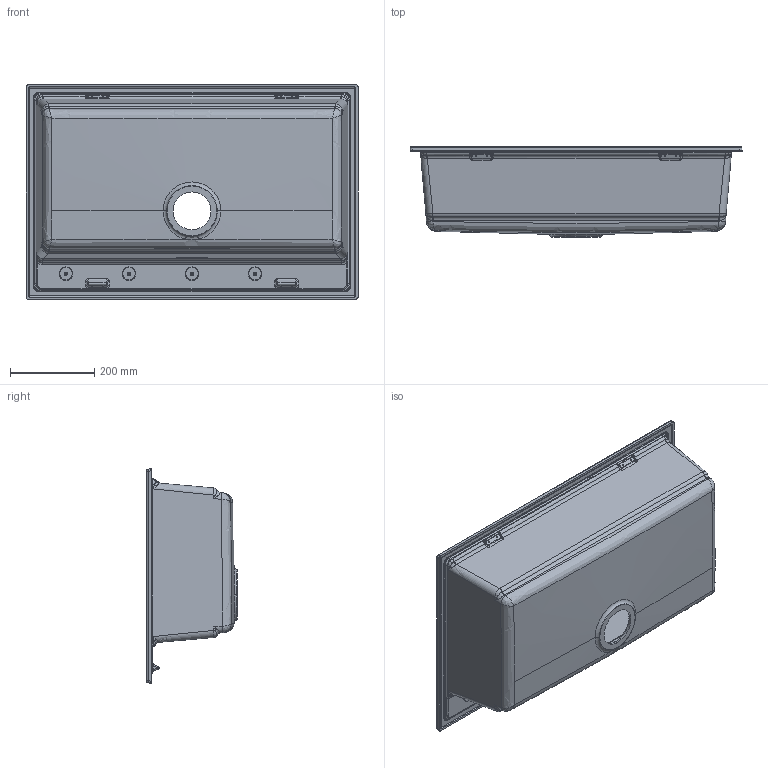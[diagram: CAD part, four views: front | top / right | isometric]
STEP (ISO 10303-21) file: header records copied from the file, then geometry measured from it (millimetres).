
FILE_DESCRIPTION (( 'STEP AP203' ), '1' );
FILE_NAME ('3d_best_130.STEP', '2023-01-11T08:04:17', ( '' ), ( '' ), 'SwSTEP 2.0', 'SolidWorks 2021', '' );
FILE_SCHEMA (( 'CONFIG_CONTROL_DESIGN' ));
Length unit declared in the file: millimetre
Products named in the file (1): 3d_best_130
Bounding box: 790 x 214.77 x 510 mm (x, y, z)
Volume: 6125099.7 mm3; surface area: 1520335.2 mm2
Topology: 1 solids, 1 shells, 521 faces, 1252 edges, 688 vertices
Faces by surface type: bspline 225, cylinder 148, plane 54, torus 53, cone 29, sphere 12
Entity records: 23697 total; most frequent: CARTESIAN_POINT 13570, ORIENTED_EDGE 2368, DIRECTION 1795, EDGE_CURVE 1184, AXIS2_PLACEMENT_3D 757, VERTEX_POINT 684, EDGE_LOOP 544, FACE_OUTER_BOUND 521
